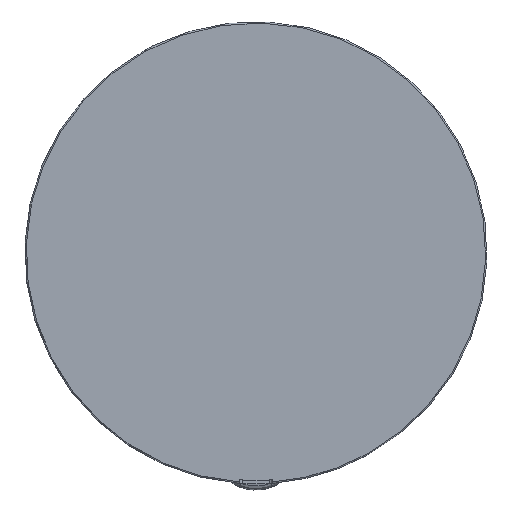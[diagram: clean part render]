
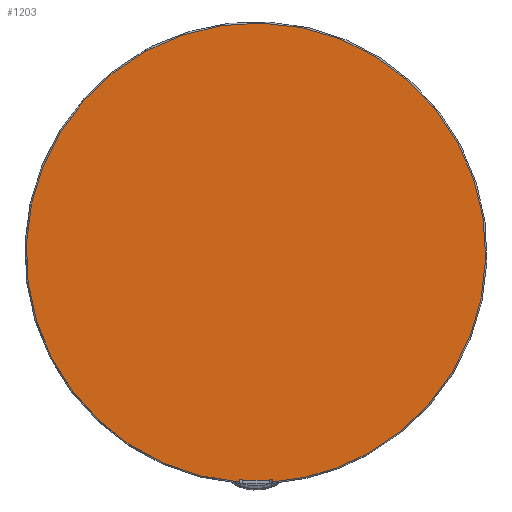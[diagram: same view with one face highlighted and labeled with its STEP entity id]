
A CAD part, left-side view. The second image highlights one B-rep face of the part: STEP entity #1203.
In plain terms, the highlighted planar face has unit normal (-1, 0, 0).
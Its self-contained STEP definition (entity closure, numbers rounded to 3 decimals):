
#392=CARTESIAN_POINT('',(59.,6.,-84.287));
#406=CARTESIAN_POINT('',(59.,0.,0.));
#407=DIRECTION('',(-1.,0.,0.));
#408=DIRECTION('',(0.,0.072,-0.997));
#409=AXIS2_PLACEMENT_3D('',#406,#407,#408);
#411=DIRECTION('',(0.,0.,1.));
#412=VECTOR('',#411,0.799);
#413=CARTESIAN_POINT('',(59.,6.,-84.287));
#414=LINE('',#413,#412);
#415=CARTESIAN_POINT('',(59.,0.,0.));
#416=DIRECTION('',(-1.,0.,0.));
#417=DIRECTION('',(0.,0.479,0.878));
#418=AXIS2_PLACEMENT_3D('',#415,#416,#417);
#420=CARTESIAN_POINT('',(59.,0.,0.));
#421=DIRECTION('',(1.,0.,0.));
#422=DIRECTION('',(0.,0.479,0.878));
#423=AXIS2_PLACEMENT_3D('',#420,#421,#422);
#425=CARTESIAN_POINT('',(59.,0.,0.));
#426=DIRECTION('',(-1.,0.,0.));
#427=DIRECTION('',(0.,-0.071,-0.997));
#428=AXIS2_PLACEMENT_3D('',#425,#426,#427);
#433=CARTESIAN_POINT('',(59.,-6.,-83.488));
#435=DIRECTION('',(0.,0.,1.));
#436=VECTOR('',#435,0.799);
#437=CARTESIAN_POINT('',(59.,-6.,-84.287));
#438=LINE('',#437,#436);
#449=CARTESIAN_POINT('',(59.,-6.,-84.287));
#528=CARTESIAN_POINT('',(59.,6.,-83.488));
#571=VERTEX_POINT('',#449);
#577=VERTEX_POINT('',#392);
#579=CARTESIAN_POINT('',(59.,-40.512,-74.156));
#580=VERTEX_POINT('',#579);
#581=CARTESIAN_POINT('',(59.,40.512,74.156));
#582=VERTEX_POINT('',#581);
#619=VERTEX_POINT('',#433);
#624=VERTEX_POINT('',#528);
#1185=CARTESIAN_POINT('',(59.,0.,83.));
#1186=DIRECTION('',(-1.,0.,0.));
#1187=DIRECTION('',(0.,1.,0.));
#1188=AXIS2_PLACEMENT_3D('',#1185,#1186,#1187);
#1189=PLANE('',#1188);
#1191=ORIENTED_EDGE('',*,*,#1190,.T.);
#1193=ORIENTED_EDGE('',*,*,#1192,.F.);
#1195=ORIENTED_EDGE('',*,*,#1194,.F.);
#1196=ORIENTED_EDGE('',*,*,#1171,.F.);
#1198=ORIENTED_EDGE('',*,*,#1197,.T.);
#1200=ORIENTED_EDGE('',*,*,#1199,.F.);
#1201=EDGE_LOOP('',(#1191,#1193,#1195,#1196,#1198,#1200));
#1202=FACE_OUTER_BOUND('',#1201,.F.);
#1203=ADVANCED_FACE('',(#1202),#1189,.T.);
#410=CIRCLE('',#409,83.703);
#419=CIRCLE('',#418,84.5);
#424=CIRCLE('',#423,84.5);
#429=CIRCLE('',#428,84.5);
#1171=EDGE_CURVE('',#582,#577,#419,.T.);
#1190=EDGE_CURVE('',#571,#619,#438,.T.);
#1192=EDGE_CURVE('',#624,#619,#410,.T.);
#1194=EDGE_CURVE('',#577,#624,#414,.T.);
#1197=EDGE_CURVE('',#582,#580,#424,.T.);
#1199=EDGE_CURVE('',#571,#580,#429,.T.);
